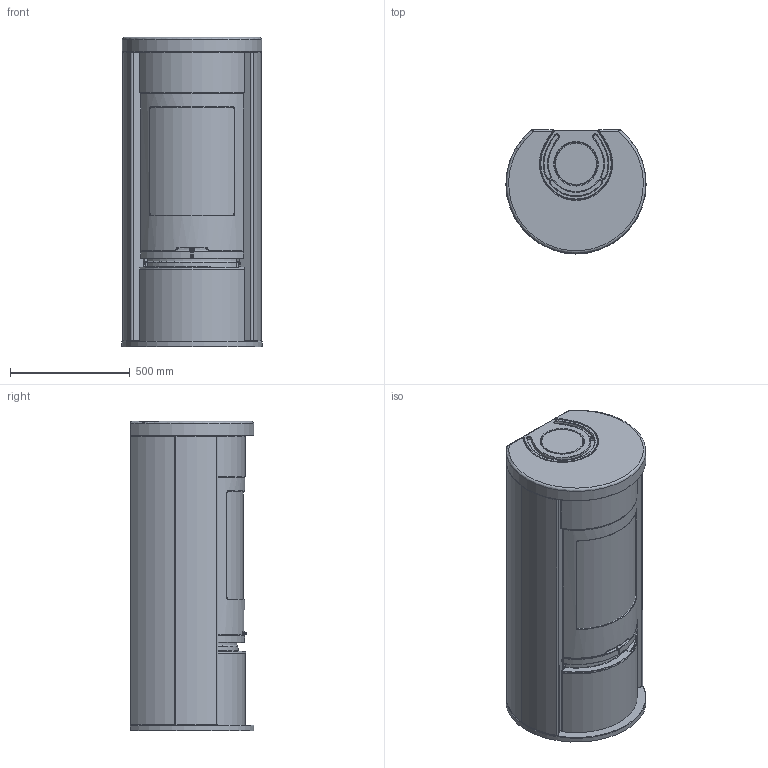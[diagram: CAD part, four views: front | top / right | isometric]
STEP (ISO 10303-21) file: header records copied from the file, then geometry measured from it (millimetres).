
FILE_DESCRIPTION(/* description */ ('Unknown'),/* implementation_level */ '2;1');
FILE_NAME(/* name */ 'C620T interior model-0',/* time_stamp */ '2017-06-28T08:55:09+02:00',/* author */ ('Unknown'),/* organization */ ('NIBE AB/Contura'),/* preprocessor_version */ 'ST-DEVELOPER v16.7',/* originating_system */ 'DEX',/* authorisation */ $);
FILE_SCHEMA (('AUTOMOTIVE_DESIGN {1 0 10303 214 3 1 1}'));
Length unit declared in the file: millimetre
Products named in the file (13): DSN1018761; DSN1018763; DSN1018413; DSN1018762; DSN1018424; DSN1018427; DSN1018770; DSN1018414; DSN1018411; DSN1018429; DSN1018732; DSN1018421; DSN1018433
Assembly tree (12 placements, depth 2):
  DSN1018761
    DSN1018763
    DSN1018413
    DSN1018762
    DSN1018424
    DSN1018427
    DSN1018770
    DSN1018414
    DSN1018411
    DSN1018429
    DSN1018732
    DSN1018421
    DSN1018433
Bounding box: 584.98 x 516.5 x 1290 mm (x, y, z)
Volume: 250023829.5 mm3; surface area: 10926251.4 mm2
Topology: 15 solids, 21 shells, 1148 faces, 2849 edges, 1805 vertices
Faces by surface type: plane 481, bspline 267, cylinder 244, torus 82, cone 53, sphere 21
Full cylindrical faces by diameter (mm): 170 x1, 172 x1, 205 x1, 210.655 x1
Entity records: 42813 total; most frequent: CARTESIAN_POINT 17711, ORIENTED_EDGE 5642, DIRECTION 4331, EDGE_CURVE 2821, VERTEX_POINT 1805, AXIS2_PLACEMENT_3D 1666, EDGE_LOOP 1246, FACE_BOUND 1246
